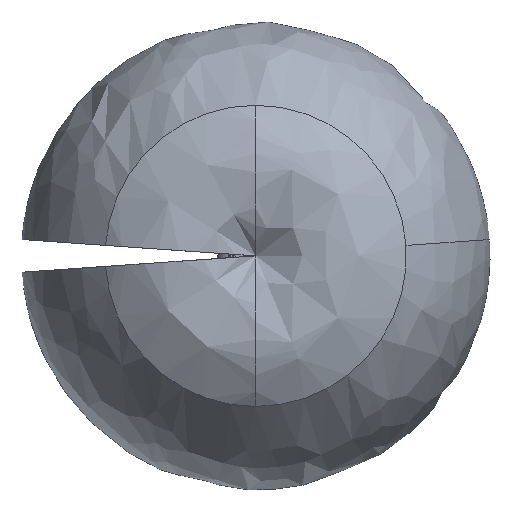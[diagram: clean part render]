
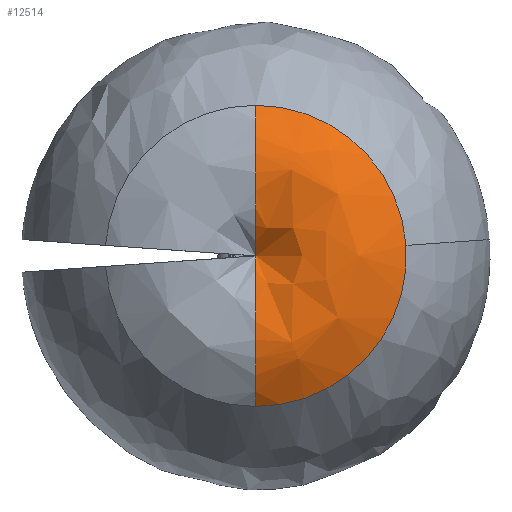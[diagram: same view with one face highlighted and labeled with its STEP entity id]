
A CAD part, front view. The second image highlights one B-rep face of the part: STEP entity #12514.
In plain terms, the highlighted free-form (B-spline) face has degree [3, 3] with [4, 4] control points.
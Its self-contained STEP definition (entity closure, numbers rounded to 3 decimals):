
#1645 = CARTESIAN_POINT ( 'NONE',  ( 0., -249.44, -578.509 ) ) ;
#3242 = VERTEX_POINT ( 'NONE', #21789 ) ;
#7325 = DIRECTION ( 'NONE',  ( 0., 0., -1. ) ) ;
#12514 = ADVANCED_FACE ( 'NONE', ( #27223 ), #140963, .T. ) ;
#12779 = AXIS2_PLACEMENT_3D ( 'NONE', #133175, #53593, #146489 ) ;
#14804 = CARTESIAN_POINT ( 'NONE',  ( 0., -249.44, 0. ) ) ;
#15031 = CARTESIAN_POINT ( 'NONE',  ( 1157.018, -249.44, 578.509 ) ) ;
#21789 = CARTESIAN_POINT ( 'NONE',  ( 0., -238.312, -0.1 ) ) ;
#23770 = DIRECTION ( 'NONE',  ( 0., 1., 0. ) ) ;
#27223 = FACE_OUTER_BOUND ( 'NONE', #161734, .T. ) ;
#27893 = CARTESIAN_POINT ( 'NONE',  ( 0., -238.312, 0.1 ) ) ;
#28252 = DIRECTION ( 'NONE',  ( 0., 0., -1. ) ) ;
#33117 = CIRCLE ( 'NONE', #160642, 578.509 ) ;
#41379 = CARTESIAN_POINT ( 'NONE',  ( 342.062, -393.327, -171.031 ) ) ;
#43437 = EDGE_CURVE ( 'NONE', #172004, #65101, #33117, .T. ) ;
#49286 = VERTEX_POINT ( 'NONE', #156328 ) ;
#51783 = CARTESIAN_POINT ( 'NONE',  ( 0., 87.62, -295.682 ) ) ;
#53593 = DIRECTION ( 'NONE',  ( -1., 0., 0. ) ) ;
#54738 = CARTESIAN_POINT ( 'NONE',  ( 0., -393.327, 171.031 ) ) ;
#64167 = CARTESIAN_POINT ( 'NONE',  ( 0., -249.44, 578.509 ) ) ;
#65101 = VERTEX_POINT ( 'NONE', #154237 ) ;
#65121 = DIRECTION ( 'NONE',  ( 0., 0., -1. ) ) ;
#68081 = CARTESIAN_POINT ( 'NONE',  ( 803.483, -397.765, -401.742 ) ) ;
#76323 = AXIS2_PLACEMENT_3D ( 'NONE', #51783, #144715, #65121 ) ;
#78382 = EDGE_CURVE ( 'NONE', #65101, #125572, #132212, .T. ) ;
#80855 = CARTESIAN_POINT ( 'NONE',  ( 0.2, -238.312, -0.1 ) ) ;
#81171 = ORIENTED_EDGE ( 'NONE', *, *, #153149, .T. ) ;
#81421 = CARTESIAN_POINT ( 'NONE',  ( 0., -397.765, 401.742 ) ) ;
#82662 = AXIS2_PLACEMENT_3D ( 'NONE', #166660, #87032, #7325 ) ;
#83894 = EDGE_CURVE ( 'NONE', #49286, #172004, #168099, .T. ) ;
#86769 = AXIS2_PLACEMENT_3D ( 'NONE', #103455, #23770, #116889 ) ;
#87032 = DIRECTION ( 'NONE',  ( 0., 1., 0. ) ) ;
#87683 = CIRCLE ( 'NONE', #82662, 0.1 ) ;
#94769 = CARTESIAN_POINT ( 'NONE',  ( 1157.018, -249.44, -578.509 ) ) ;
#96831 = ORIENTED_EDGE ( 'NONE', *, *, #83894, .F. ) ;
#103455 = CARTESIAN_POINT ( 'NONE',  ( 0., -249.44, 0. ) ) ;
#106747 = ORIENTED_EDGE ( 'NONE', *, *, #43437, .F. ) ;
#107604 = CARTESIAN_POINT ( 'NONE',  ( 0.2, -238.312, 0.1 ) ) ;
#107961 = DIRECTION ( 'NONE',  ( 0., 1., 0. ) ) ;
#108182 = CARTESIAN_POINT ( 'NONE',  ( 0., -249.44, 578.509 ) ) ;
#116889 = DIRECTION ( 'NONE',  ( 0., 0., -1. ) ) ;
#121003 = CARTESIAN_POINT ( 'NONE',  ( 0., -393.327, -171.031 ) ) ;
#125097 = ORIENTED_EDGE ( 'NONE', *, *, #162136, .T. ) ;
#125572 = VERTEX_POINT ( 'NONE', #142069 ) ;
#129195 = ORIENTED_EDGE ( 'NONE', *, *, #78382, .F. ) ;
#132212 = CIRCLE ( 'NONE', #86769, 578.509 ) ;
#133175 = CARTESIAN_POINT ( 'NONE',  ( 0., 87.62, 295.682 ) ) ;
#133754 = CARTESIAN_POINT ( 'NONE',  ( 0., -238.312, -0.1 ) ) ;
#134337 = CARTESIAN_POINT ( 'NONE',  ( 342.062, -393.327, 171.031 ) ) ;
#140963 =( BOUNDED_SURFACE ( )  B_SPLINE_SURFACE ( 3, 3, ( 
 ( #133754, #80855, #107604, #27893 ),
 ( #121003, #41379, #134337, #54738 ),
 ( #147646, #68081, #161020, #81421 ),
 ( #1645, #94769, #15031, #108182 ) ),
 .UNSPECIFIED., .F., .F., .T. ) 
 B_SPLINE_SURFACE_WITH_KNOTS ( ( 4, 4 ),
 ( 4, 4 ),
 ( 0., 1. ),
 ( 0., 1. ),
 .UNSPECIFIED. ) 
 GEOMETRIC_REPRESENTATION_ITEM ( )  RATIONAL_B_SPLINE_SURFACE ( (
 ( 1., 0.333, 0.333, 1.),
 ( 0.836, 0.279, 0.279, 0.836),
 ( 0.836, 0.279, 0.279, 0.836),
 ( 1., 0.333, 0.333, 1.) ) ) 
 REPRESENTATION_ITEM ( '' )  SURFACE ( )  );
#142069 = CARTESIAN_POINT ( 'NONE',  ( 0., -249.44, -578.509 ) ) ;
#144715 = DIRECTION ( 'NONE',  ( 1., 0., 0. ) ) ;
#146489 = DIRECTION ( 'NONE',  ( 0., 0., 1. ) ) ;
#147646 = CARTESIAN_POINT ( 'NONE',  ( 0., -397.765, -401.742 ) ) ;
#153149 = EDGE_CURVE ( 'NONE', #3242, #125572, #161248, .T. ) ;
#154237 = CARTESIAN_POINT ( 'NONE',  ( 577.1, -249.44, 40.355 ) ) ;
#156328 = CARTESIAN_POINT ( 'NONE',  ( 0., -238.312, 0.1 ) ) ;
#160642 = AXIS2_PLACEMENT_3D ( 'NONE', #14804, #107961, #28252 ) ;
#161020 = CARTESIAN_POINT ( 'NONE',  ( 803.483, -397.765, 401.742 ) ) ;
#161248 = CIRCLE ( 'NONE', #76323, 440. ) ;
#161734 = EDGE_LOOP ( 'NONE', ( #96831, #125097, #81171, #129195, #106747 ) ) ;
#162136 = EDGE_CURVE ( 'NONE', #49286, #3242, #87683, .T. ) ;
#166660 = CARTESIAN_POINT ( 'NONE',  ( 0., -238.312, 0. ) ) ;
#168099 = CIRCLE ( 'NONE', #12779, 440. ) ;
#172004 = VERTEX_POINT ( 'NONE', #64167 ) ;
